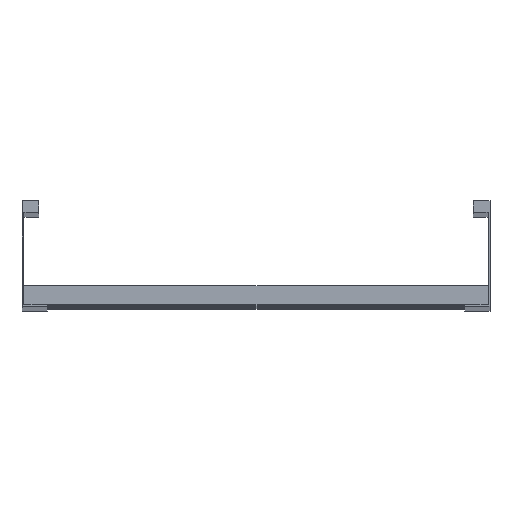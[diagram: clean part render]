
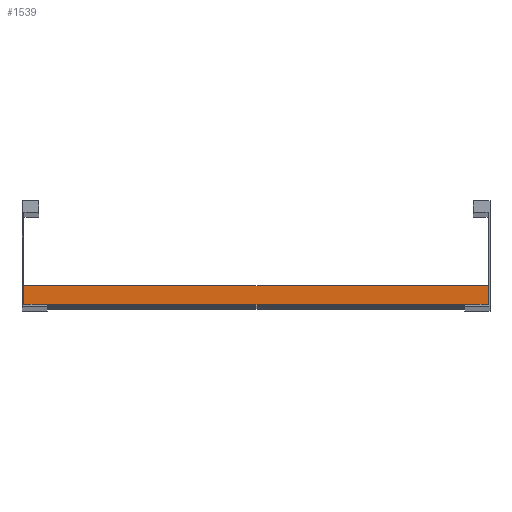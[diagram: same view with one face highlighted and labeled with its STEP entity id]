
A CAD part, top view. The second image highlights one B-rep face of the part: STEP entity #1539.
In plain terms, the highlighted planar face has unit normal (0, 0, 1).
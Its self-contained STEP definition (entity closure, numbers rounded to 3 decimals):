
#104 = EDGE_CURVE ( 'NONE', #1151, #490, #1285, .T. ) ;
#118 = LINE ( 'NONE', #1061, #699 ) ;
#120 = EDGE_CURVE ( 'NONE', #490, #1145, #736, .T. ) ;
#248 = CARTESIAN_POINT ( 'NONE',  ( 248., 20., 20.25 ) ) ;
#253 = AXIS2_PLACEMENT_3D ( 'NONE', #758, #1566, #1170 ) ;
#409 = CARTESIAN_POINT ( 'NONE',  ( -248., 20., 20.25 ) ) ;
#490 = VERTEX_POINT ( 'NONE', #596 ) ;
#521 = EDGE_LOOP ( 'NONE', ( #1575, #1310, #610, #1559 ) ) ;
#592 = VECTOR ( 'NONE', #712, 1000. ) ;
#596 = CARTESIAN_POINT ( 'NONE',  ( 248., 0., 20.25 ) ) ;
#610 = ORIENTED_EDGE ( 'NONE', *, *, #104, .F. ) ;
#674 = EDGE_CURVE ( 'NONE', #1691, #1145, #118, .T. ) ;
#699 = VECTOR ( 'NONE', #1582, 1000. ) ;
#712 = DIRECTION ( 'NONE',  ( -1., 0., 0. ) ) ;
#736 = LINE ( 'NONE', #1293, #592 ) ;
#758 = CARTESIAN_POINT ( 'NONE',  ( 248., 20., 20.25 ) ) ;
#787 = PLANE ( 'NONE',  #253 ) ;
#936 = VECTOR ( 'NONE', #1171, 1000. ) ;
#1046 = EDGE_CURVE ( 'NONE', #1151, #1691, #1197, .T. ) ;
#1061 = CARTESIAN_POINT ( 'NONE',  ( -248., 20., 20.25 ) ) ;
#1145 = VERTEX_POINT ( 'NONE', #1340 ) ;
#1151 = VERTEX_POINT ( 'NONE', #1477 ) ;
#1170 = DIRECTION ( 'NONE',  ( 0., 1., 0. ) ) ;
#1171 = DIRECTION ( 'NONE',  ( -1., 0., 0. ) ) ;
#1197 = LINE ( 'NONE', #248, #936 ) ;
#1263 = DIRECTION ( 'NONE',  ( 0., -1., 0. ) ) ;
#1285 = LINE ( 'NONE', #1673, #1493 ) ;
#1293 = CARTESIAN_POINT ( 'NONE',  ( 248., 0., 20.25 ) ) ;
#1310 = ORIENTED_EDGE ( 'NONE', *, *, #120, .F. ) ;
#1340 = CARTESIAN_POINT ( 'NONE',  ( -248., 0., 20.25 ) ) ;
#1434 = FACE_OUTER_BOUND ( 'NONE', #521, .T. ) ;
#1477 = CARTESIAN_POINT ( 'NONE',  ( 248., 20., 20.25 ) ) ;
#1493 = VECTOR ( 'NONE', #1263, 1000. ) ;
#1539 = ADVANCED_FACE ( 'NONE', ( #1434 ), #787, .F. ) ;
#1559 = ORIENTED_EDGE ( 'NONE', *, *, #1046, .T. ) ;
#1566 = DIRECTION ( 'NONE',  ( 0., 0., -1. ) ) ;
#1575 = ORIENTED_EDGE ( 'NONE', *, *, #674, .T. ) ;
#1582 = DIRECTION ( 'NONE',  ( 0., -1., 0. ) ) ;
#1673 = CARTESIAN_POINT ( 'NONE',  ( 248., 20., 20.25 ) ) ;
#1691 = VERTEX_POINT ( 'NONE', #409 ) ;
